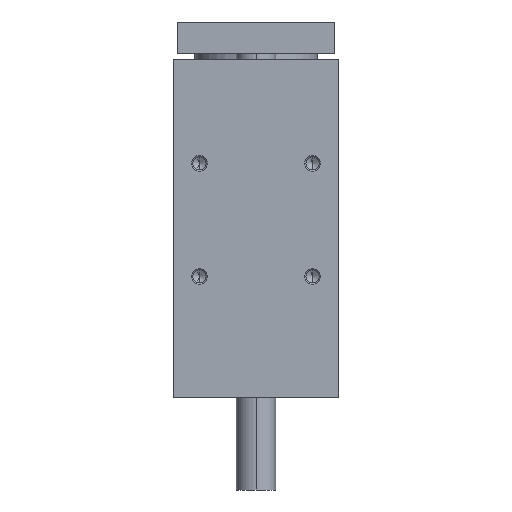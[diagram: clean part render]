
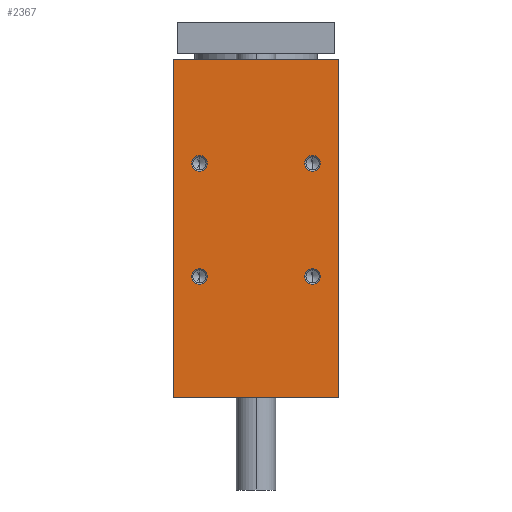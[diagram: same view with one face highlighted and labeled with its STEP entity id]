
A CAD part, left-side view. The second image highlights one B-rep face of the part: STEP entity #2367.
In plain terms, the highlighted planar face has unit normal (-1, 0, 0).
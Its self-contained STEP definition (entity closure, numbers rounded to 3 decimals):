
#9 = CARTESIAN_POINT ( 'NONE',  ( -94.5, 52.5, -128. ) ) ;
#25 = EDGE_LOOP ( 'NONE', ( #4770, #6404 ) ) ;
#317 = ORIENTED_EDGE ( 'NONE', *, *, #613, .T. ) ;
#330 = CARTESIAN_POINT ( 'NONE',  ( -94.5, -52.5, -128. ) ) ;
#613 = EDGE_CURVE ( 'NONE', #6292, #3063, #4618, .T. ) ;
#796 = FACE_BOUND ( 'NONE', #25, .T. ) ;
#842 = ORIENTED_EDGE ( 'NONE', *, *, #5824, .T. ) ;
#908 = DIRECTION ( 'NONE',  ( 1., 0., 0. ) ) ;
#922 = CIRCLE ( 'NONE', #7296, 5. ) ;
#958 = ORIENTED_EDGE ( 'NONE', *, *, #5852, .T. ) ;
#1068 = DIRECTION ( 'NONE',  ( 1., 0., 0. ) ) ;
#1083 = CARTESIAN_POINT ( 'NONE',  ( -94.5, -52.5, -128. ) ) ;
#1090 = CIRCLE ( 'NONE', #4653, 5. ) ;
#1207 = VERTEX_POINT ( 'NONE', #3051 ) ;
#1296 = EDGE_CURVE ( 'NONE', #3063, #6292, #5082, .T. ) ;
#1302 = ORIENTED_EDGE ( 'NONE', *, *, #7521, .T. ) ;
#1369 = AXIS2_PLACEMENT_3D ( 'NONE', #8285, #6890, #1626 ) ;
#1626 = DIRECTION ( 'NONE',  ( 0., 0., -1. ) ) ;
#1655 = CARTESIAN_POINT ( 'NONE',  ( -94.5, -52.5, 87. ) ) ;
#1666 = DIRECTION ( 'NONE',  ( 1., 0., 0. ) ) ;
#1911 = LINE ( 'NONE', #1083, #8357 ) ;
#1913 = DIRECTION ( 'NONE',  ( 1., 0., 0. ) ) ;
#1950 = CARTESIAN_POINT ( 'NONE',  ( -94.5, 36., 16. ) ) ;
#2009 = VECTOR ( 'NONE', #9391, 1000. ) ;
#2209 = EDGE_LOOP ( 'NONE', ( #958, #6750, #3341, #2889 ) ) ;
#2223 = FACE_BOUND ( 'NONE', #8322, .T. ) ;
#2367 = ADVANCED_FACE ( 'NONE', ( #8177, #796, #2223, #5187, #5278 ), #3080, .F. ) ;
#2488 = DIRECTION ( 'NONE',  ( 1., 0., 0. ) ) ;
#2726 = LINE ( 'NONE', #6437, #2009 ) ;
#2773 = VERTEX_POINT ( 'NONE', #9 ) ;
#2889 = ORIENTED_EDGE ( 'NONE', *, *, #6426, .T. ) ;
#2891 = VERTEX_POINT ( 'NONE', #1655 ) ;
#3051 = CARTESIAN_POINT ( 'NONE',  ( -94.5, -36., 16. ) ) ;
#3063 = VERTEX_POINT ( 'NONE', #1950 ) ;
#3080 = PLANE ( 'NONE',  #3751 ) ;
#3084 = CIRCLE ( 'NONE', #5269, 5. ) ;
#3153 = VERTEX_POINT ( 'NONE', #8336 ) ;
#3165 = VERTEX_POINT ( 'NONE', #330 ) ;
#3172 = DIRECTION ( 'NONE',  ( 0., -1., 0. ) ) ;
#3220 = LINE ( 'NONE', #6918, #4782 ) ;
#3341 = ORIENTED_EDGE ( 'NONE', *, *, #8844, .F. ) ;
#3405 = CARTESIAN_POINT ( 'NONE',  ( -94.5, -36., 21. ) ) ;
#3420 = CARTESIAN_POINT ( 'NONE',  ( -94.5, 36., -46. ) ) ;
#3646 = CARTESIAN_POINT ( 'NONE',  ( -94.5, 36., 26. ) ) ;
#3660 = ORIENTED_EDGE ( 'NONE', *, *, #1296, .T. ) ;
#3751 = AXIS2_PLACEMENT_3D ( 'NONE', #5479, #1666, #4690 ) ;
#3861 = AXIS2_PLACEMENT_3D ( 'NONE', #5764, #4098, #7065 ) ;
#3877 = CARTESIAN_POINT ( 'NONE',  ( -94.5, -36., -56. ) ) ;
#3995 = AXIS2_PLACEMENT_3D ( 'NONE', #8573, #1913, #8613 ) ;
#4050 = DIRECTION ( 'NONE',  ( 0., 0., 1. ) ) ;
#4066 = CARTESIAN_POINT ( 'NONE',  ( -94.5, -36., -46. ) ) ;
#4078 = EDGE_CURVE ( 'NONE', #4450, #1207, #6155, .T. ) ;
#4098 = DIRECTION ( 'NONE',  ( 1., 0., 0. ) ) ;
#4356 = ORIENTED_EDGE ( 'NONE', *, *, #8063, .T. ) ;
#4450 = VERTEX_POINT ( 'NONE', #7621 ) ;
#4600 = DIRECTION ( 'NONE',  ( 0., 0., -1. ) ) ;
#4618 = CIRCLE ( 'NONE', #1369, 5. ) ;
#4642 = EDGE_LOOP ( 'NONE', ( #317, #3660 ) ) ;
#4653 = AXIS2_PLACEMENT_3D ( 'NONE', #7567, #908, #6855 ) ;
#4686 = EDGE_CURVE ( 'NONE', #3153, #2891, #3220, .T. ) ;
#4690 = DIRECTION ( 'NONE',  ( 0., 1., 0. ) ) ;
#4770 = ORIENTED_EDGE ( 'NONE', *, *, #8008, .T. ) ;
#4782 = VECTOR ( 'NONE', #3172, 1000. ) ;
#4876 = EDGE_CURVE ( 'NONE', #7983, #8435, #7549, .T. ) ;
#5082 = CIRCLE ( 'NONE', #7873, 5. ) ;
#5187 = FACE_BOUND ( 'NONE', #7888, .T. ) ;
#5201 = CARTESIAN_POINT ( 'NONE',  ( -94.5, 36., -56. ) ) ;
#5269 = AXIS2_PLACEMENT_3D ( 'NONE', #5471, #8422, #5560 ) ;
#5278 = FACE_BOUND ( 'NONE', #4642, .T. ) ;
#5362 = LINE ( 'NONE', #9247, #8546 ) ;
#5471 = CARTESIAN_POINT ( 'NONE',  ( -94.5, 36., -51. ) ) ;
#5479 = CARTESIAN_POINT ( 'NONE',  ( -94.5, 52.5, -128. ) ) ;
#5498 = CARTESIAN_POINT ( 'NONE',  ( -94.5, -36., -51. ) ) ;
#5560 = DIRECTION ( 'NONE',  ( 0., 0., -1. ) ) ;
#5764 = CARTESIAN_POINT ( 'NONE',  ( -94.5, -36., 21. ) ) ;
#5824 = EDGE_CURVE ( 'NONE', #6551, #7514, #3084, .T. ) ;
#5852 = EDGE_CURVE ( 'NONE', #3165, #2891, #1911, .T. ) ;
#6155 = CIRCLE ( 'NONE', #9425, 5. ) ;
#6292 = VERTEX_POINT ( 'NONE', #3646 ) ;
#6374 = CIRCLE ( 'NONE', #3861, 5. ) ;
#6404 = ORIENTED_EDGE ( 'NONE', *, *, #4876, .T. ) ;
#6426 = EDGE_CURVE ( 'NONE', #2773, #3165, #2726, .T. ) ;
#6437 = CARTESIAN_POINT ( 'NONE',  ( -94.5, 52.5, -128. ) ) ;
#6551 = VERTEX_POINT ( 'NONE', #5201 ) ;
#6750 = ORIENTED_EDGE ( 'NONE', *, *, #4686, .F. ) ;
#6855 = DIRECTION ( 'NONE',  ( 0., 0., -1. ) ) ;
#6890 = DIRECTION ( 'NONE',  ( 1., 0., 0. ) ) ;
#6901 = DIRECTION ( 'NONE',  ( 1., 0., 0. ) ) ;
#6918 = CARTESIAN_POINT ( 'NONE',  ( -94.5, 52.5, 87. ) ) ;
#7054 = DIRECTION ( 'NONE',  ( 0., 0., -1. ) ) ;
#7065 = DIRECTION ( 'NONE',  ( 0., 0., -1. ) ) ;
#7296 = AXIS2_PLACEMENT_3D ( 'NONE', #5498, #6901, #4600 ) ;
#7514 = VERTEX_POINT ( 'NONE', #3420 ) ;
#7521 = EDGE_CURVE ( 'NONE', #1207, #4450, #6374, .T. ) ;
#7549 = CIRCLE ( 'NONE', #3995, 5. ) ;
#7567 = CARTESIAN_POINT ( 'NONE',  ( -94.5, 36., -51. ) ) ;
#7621 = CARTESIAN_POINT ( 'NONE',  ( -94.5, -36., 26. ) ) ;
#7873 = AXIS2_PLACEMENT_3D ( 'NONE', #9389, #1068, #8556 ) ;
#7888 = EDGE_LOOP ( 'NONE', ( #9562, #1302 ) ) ;
#7983 = VERTEX_POINT ( 'NONE', #3877 ) ;
#8008 = EDGE_CURVE ( 'NONE', #8435, #7983, #922, .T. ) ;
#8063 = EDGE_CURVE ( 'NONE', #7514, #6551, #1090, .T. ) ;
#8177 = FACE_OUTER_BOUND ( 'NONE', #2209, .T. ) ;
#8285 = CARTESIAN_POINT ( 'NONE',  ( -94.5, 36., 21. ) ) ;
#8322 = EDGE_LOOP ( 'NONE', ( #4356, #842 ) ) ;
#8336 = CARTESIAN_POINT ( 'NONE',  ( -94.5, 52.5, 87. ) ) ;
#8357 = VECTOR ( 'NONE', #4050, 1000. ) ;
#8362 = DIRECTION ( 'NONE',  ( 0., 0., 1. ) ) ;
#8422 = DIRECTION ( 'NONE',  ( 1., 0., 0. ) ) ;
#8435 = VERTEX_POINT ( 'NONE', #4066 ) ;
#8546 = VECTOR ( 'NONE', #8362, 1000. ) ;
#8556 = DIRECTION ( 'NONE',  ( 0., 0., -1. ) ) ;
#8573 = CARTESIAN_POINT ( 'NONE',  ( -94.5, -36., -51. ) ) ;
#8613 = DIRECTION ( 'NONE',  ( 0., 0., -1. ) ) ;
#8844 = EDGE_CURVE ( 'NONE', #2773, #3153, #5362, .T. ) ;
#9247 = CARTESIAN_POINT ( 'NONE',  ( -94.5, 52.5, -128. ) ) ;
#9389 = CARTESIAN_POINT ( 'NONE',  ( -94.5, 36., 21. ) ) ;
#9391 = DIRECTION ( 'NONE',  ( 0., -1., 0. ) ) ;
#9425 = AXIS2_PLACEMENT_3D ( 'NONE', #3405, #2488, #7054 ) ;
#9562 = ORIENTED_EDGE ( 'NONE', *, *, #4078, .T. ) ;
